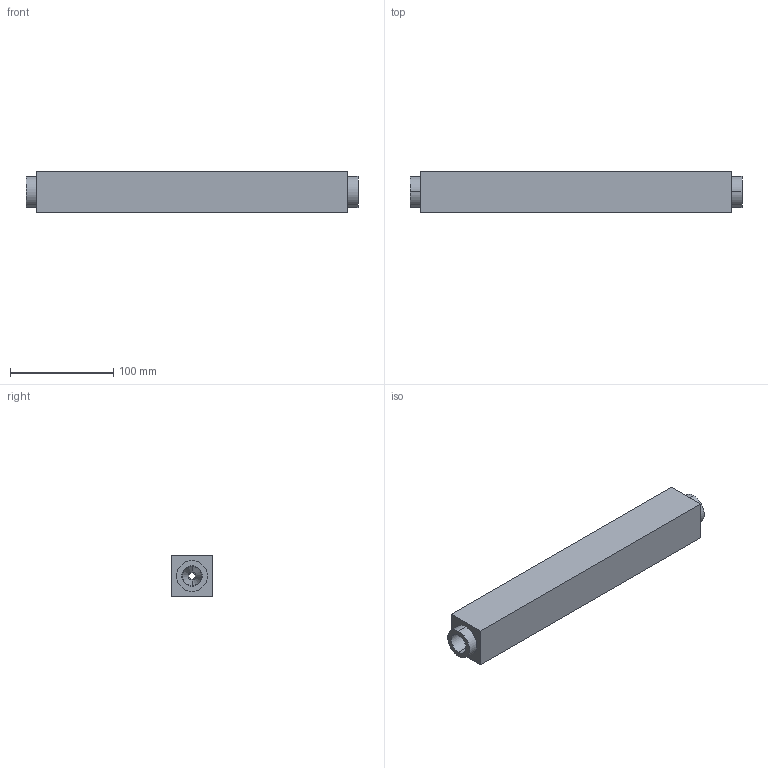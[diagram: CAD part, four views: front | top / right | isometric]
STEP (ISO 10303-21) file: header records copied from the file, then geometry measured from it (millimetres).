
FILE_DESCRIPTION (( 'STEP AP214' ), '1' );
FILE_NAME ('LD_olej.STEP', '2019-07-31T07:57:23', ( '' ), ( '' ), 'SwSTEP 2.0', 'SolidWorks 2016', '' );
FILE_SCHEMA (( 'AUTOMOTIVE_DESIGN' ));
Length unit declared in the file: millimetre
Products named in the file (1): LD_olej
Bounding box: 321 x 40 x 40 mm (x, y, z)
Volume: 411017.9 mm3; surface area: 70840.7 mm2
Topology: 1 solids, 1 shells, 30 faces, 66 edges, 40 vertices
Faces by surface type: cylinder 12, plane 8, torus 6, cone 4
Entity records: 930 total; most frequent: CARTESIAN_POINT 201, DIRECTION 158, ORIENTED_EDGE 132, EDGE_CURVE 66, AXIS2_PLACEMENT_3D 65, VERTEX_POINT 40, EDGE_LOOP 38, CIRCLE 34
